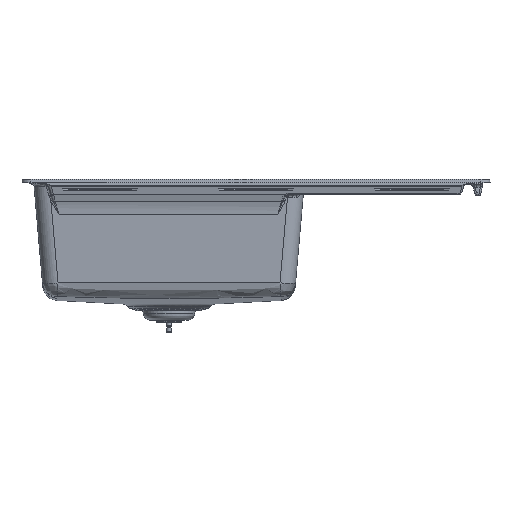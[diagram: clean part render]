
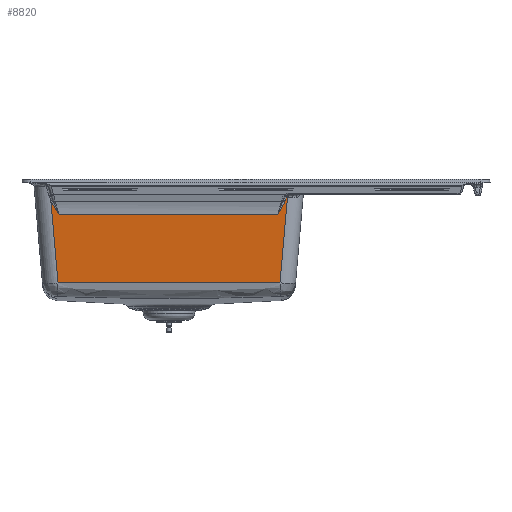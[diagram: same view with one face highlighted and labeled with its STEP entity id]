
A CAD part, left-side view. The second image highlights one B-rep face of the part: STEP entity #8820.
In plain terms, the highlighted planar face has unit normal (-0.996, 0, -0.087).
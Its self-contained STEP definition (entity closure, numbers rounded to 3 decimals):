
#2964=(
BOUNDED_CURVE()
B_SPLINE_CURVE(2,(#54563,#54564,#54565),.UNSPECIFIED.,.F.,.F.)
B_SPLINE_CURVE_WITH_KNOTS((3,3),(0.,3.116),.UNSPECIFIED.)
CURVE()
GEOMETRIC_REPRESENTATION_ITEM()
RATIONAL_B_SPLINE_CURVE((1.,0.999,1.))
REPRESENTATION_ITEM('')
);
#2965=(
BOUNDED_CURVE()
B_SPLINE_CURVE(2,(#54566,#54567,#54568),.UNSPECIFIED.,.F.,.F.)
B_SPLINE_CURVE_WITH_KNOTS((3,3),(0.,3.733),.UNSPECIFIED.)
CURVE()
GEOMETRIC_REPRESENTATION_ITEM()
RATIONAL_B_SPLINE_CURVE((1.,0.998,1.))
REPRESENTATION_ITEM('')
);
#2966=(
BOUNDED_CURVE()
B_SPLINE_CURVE(2,(#54569,#54570,#54571),.UNSPECIFIED.,.F.,.F.)
B_SPLINE_CURVE_WITH_KNOTS((3,3),(0.,1.401),.UNSPECIFIED.)
CURVE()
GEOMETRIC_REPRESENTATION_ITEM()
RATIONAL_B_SPLINE_CURVE((1.,1.,1.))
REPRESENTATION_ITEM('')
);
#8820=ADVANCED_FACE('',(#10709),#35221,.T.);
#10709=FACE_OUTER_BOUND('',#12629,.T.);
#12629=EDGE_LOOP('',(#16258,#16259,#16260,#16261,#16262,#16263,#16264,#16265,
#16266,#16267,#16268,#16269));
#16258=ORIENTED_EDGE('',*,*,#25147,.T.);
#16259=ORIENTED_EDGE('',*,*,#25100,.F.);
#16260=ORIENTED_EDGE('',*,*,#25118,.F.);
#16261=ORIENTED_EDGE('',*,*,#24870,.F.);
#16262=ORIENTED_EDGE('',*,*,#24838,.T.);
#16263=ORIENTED_EDGE('',*,*,#24842,.T.);
#16264=ORIENTED_EDGE('',*,*,#24845,.T.);
#16265=ORIENTED_EDGE('',*,*,#25148,.T.);
#16266=ORIENTED_EDGE('',*,*,#25149,.T.);
#16267=ORIENTED_EDGE('',*,*,#24785,.T.);
#16268=ORIENTED_EDGE('',*,*,#24950,.T.);
#16269=ORIENTED_EDGE('',*,*,#24788,.T.);
#24785=EDGE_CURVE('',#32377,#32378,#29633,.T.);
#24788=EDGE_CURVE('',#32381,#32382,#29634,.T.);
#24838=EDGE_CURVE('',#32413,#32416,#29660,.T.);
#24842=EDGE_CURVE('',#32416,#32418,#29662,.T.);
#24845=EDGE_CURVE('',#32418,#32380,#29664,.T.);
#24870=EDGE_CURVE('',#32413,#32432,#29676,.T.);
#24950=EDGE_CURVE('',#32378,#32381,#29717,.T.);
#25100=EDGE_CURVE('',#32547,#32384,#29798,.T.);
#25118=EDGE_CURVE('',#32432,#32547,#29801,.T.);
#25147=EDGE_CURVE('',#32382,#32384,#2964,.T.);
#25148=EDGE_CURVE('',#32380,#32375,#2965,.T.);
#25149=EDGE_CURVE('',#32375,#32377,#2966,.T.);
#29633=B_SPLINE_CURVE_WITH_KNOTS('',3,(#52853,#52854,#52855,#52856,#52857,
#52858),.UNSPECIFIED.,.F.,.F.,(4,2,4),(-2.348,0.,
0.004),.UNSPECIFIED.);
#29634=B_SPLINE_CURVE_WITH_KNOTS('',3,(#52865,#52866,#52867,#52868,#52869,
#52870),.UNSPECIFIED.,.F.,.F.,(4,2,4),(-2.376,-2.372,
0.),.UNSPECIFIED.);
#29660=B_SPLINE_CURVE_WITH_KNOTS('',3,(#53041,#53042,#53043,#53044),
 .UNSPECIFIED.,.F.,.F.,(4,4),(-0.362,0.),.UNSPECIFIED.);
#29662=B_SPLINE_CURVE_WITH_KNOTS('',3,(#53055,#53056,#53057,#53058),
 .UNSPECIFIED.,.F.,.F.,(4,4),(-0.633,0.),.UNSPECIFIED.);
#29664=B_SPLINE_CURVE_WITH_KNOTS('',3,(#53066,#53067,#53068,#53069),
 .UNSPECIFIED.,.F.,.F.,(4,4),(-3.101,0.),.UNSPECIFIED.);
#29676=B_SPLINE_CURVE_WITH_KNOTS('',1,(#53135,#53136),.UNSPECIFIED.,.F.,
 .F.,(2,2),(0.,143.296),.UNSPECIFIED.);
#29717=B_SPLINE_CURVE_WITH_KNOTS('',1,(#53437,#53438),.UNSPECIFIED.,.F.,
 .F.,(2,2),(-364.52,0.),.UNSPECIFIED.);
#29798=B_SPLINE_CURVE_WITH_KNOTS('',1,(#54355,#54356),.UNSPECIFIED.,.F.,
 .F.,(2,2),(0.,138.249),.UNSPECIFIED.);
#29801=B_SPLINE_CURVE_WITH_KNOTS('',3,(#54406,#54407,#54408,#54409,#54410,
#54411),.UNSPECIFIED.,.F.,.F.,(4,1,1,4),(0.,105.734,211.468,
370.069),.UNSPECIFIED.);
#32375=VERTEX_POINT('',#51596);
#32377=VERTEX_POINT('',#51598);
#32378=VERTEX_POINT('',#51599);
#32380=VERTEX_POINT('',#51601);
#32381=VERTEX_POINT('',#51602);
#32382=VERTEX_POINT('',#51603);
#32384=VERTEX_POINT('',#51605);
#32413=VERTEX_POINT('',#51634);
#32416=VERTEX_POINT('',#51637);
#32418=VERTEX_POINT('',#51639);
#32432=VERTEX_POINT('',#51653);
#32547=VERTEX_POINT('',#51768);
#35221=PLANE('',#35983);
#35983=AXIS2_PLACEMENT_3D('',#48432,#39028,$);
#39028=DIRECTION('',(-0.996,0.,-0.087));
#48432=CARTESIAN_POINT('',(-235.185,394.889,119.739));
#51596=CARTESIAN_POINT('',(-233.344,-34.917,98.69));
#51598=CARTESIAN_POINT('',(-233.234,-34.309,97.433));
#51599=CARTESIAN_POINT('',(-231.444,-22.861,76.971));
#51601=CARTESIAN_POINT('',(-233.641,-36.431,102.088));
#51602=CARTESIAN_POINT('',(-231.444,341.659,76.971));
#51603=CARTESIAN_POINT('',(-233.219,353.899,97.257));
#51605=CARTESIAN_POINT('',(-233.46,355.327,100.015));
#51634=CARTESIAN_POINT('',(-233.898,-39.096,105.024));
#51637=CARTESIAN_POINT('',(-233.883,-38.778,104.852));
#51639=CARTESIAN_POINT('',(-233.852,-38.256,104.498));
#51653=CARTESIAN_POINT('',(-221.456,-26.654,-37.187));
#51768=CARTESIAN_POINT('',(-221.456,343.323,-37.187));
#52853=CARTESIAN_POINT('',(-233.234,-34.309,97.433));
#52854=CARTESIAN_POINT('',(-232.622,-30.843,90.443));
#52855=CARTESIAN_POINT('',(-232.034,-26.86,83.72));
#52856=CARTESIAN_POINT('',(-231.446,-22.876,76.995));
#52857=CARTESIAN_POINT('',(-231.445,-22.868,76.983));
#52858=CARTESIAN_POINT('',(-231.444,-22.861,76.971));
#52865=CARTESIAN_POINT('',(-231.444,341.659,76.971));
#52866=CARTESIAN_POINT('',(-231.445,341.667,76.983));
#52867=CARTESIAN_POINT('',(-231.446,341.674,76.996));
#52868=CARTESIAN_POINT('',(-232.029,345.905,83.666));
#52869=CARTESIAN_POINT('',(-232.613,350.127,90.335));
#52870=CARTESIAN_POINT('',(-233.219,353.899,97.257));
#53041=CARTESIAN_POINT('',(-233.898,-39.096,105.024));
#53042=CARTESIAN_POINT('',(-233.893,-38.988,104.971));
#53043=CARTESIAN_POINT('',(-233.888,-38.882,104.914));
#53044=CARTESIAN_POINT('',(-233.883,-38.778,104.852));
#53055=CARTESIAN_POINT('',(-233.883,-38.778,104.852));
#53056=CARTESIAN_POINT('',(-233.874,-38.598,104.744));
#53057=CARTESIAN_POINT('',(-233.863,-38.424,104.625));
#53058=CARTESIAN_POINT('',(-233.852,-38.256,104.498));
#53066=CARTESIAN_POINT('',(-233.852,-38.256,104.498));
#53067=CARTESIAN_POINT('',(-233.798,-37.442,103.883));
#53068=CARTESIAN_POINT('',(-233.723,-36.827,103.026));
#53069=CARTESIAN_POINT('',(-233.641,-36.431,102.088));
#53135=CARTESIAN_POINT('',(-233.898,-39.096,105.024));
#53136=CARTESIAN_POINT('',(-221.456,-26.654,-37.187));
#53437=CARTESIAN_POINT('',(-231.444,-22.861,76.971));
#53438=CARTESIAN_POINT('',(-231.444,341.659,76.971));
#54355=CARTESIAN_POINT('',(-221.456,343.323,-37.187));
#54356=CARTESIAN_POINT('',(-233.46,355.327,100.015));
#54406=CARTESIAN_POINT('',(-221.456,-26.654,-37.187));
#54407=CARTESIAN_POINT('',(-221.36,8.571,-38.288));
#54408=CARTESIAN_POINT('',(-221.202,79.035,-40.097));
#54409=CARTESIAN_POINT('',(-221.138,202.392,-40.828));
#54410=CARTESIAN_POINT('',(-221.312,290.485,-38.838));
#54411=CARTESIAN_POINT('',(-221.456,343.323,-37.187));
#54563=CARTESIAN_POINT('',(-233.219,353.899,97.257));
#54564=CARTESIAN_POINT('',(-233.333,354.609,98.561));
#54565=CARTESIAN_POINT('',(-233.46,355.327,100.015));
#54566=CARTESIAN_POINT('',(-233.641,-36.431,102.088));
#54567=CARTESIAN_POINT('',(-233.485,-35.677,100.299));
#54568=CARTESIAN_POINT('',(-233.344,-34.917,98.69));
#54569=CARTESIAN_POINT('',(-233.344,-34.917,98.69));
#54570=CARTESIAN_POINT('',(-233.287,-34.613,98.045));
#54571=CARTESIAN_POINT('',(-233.234,-34.309,97.433));
